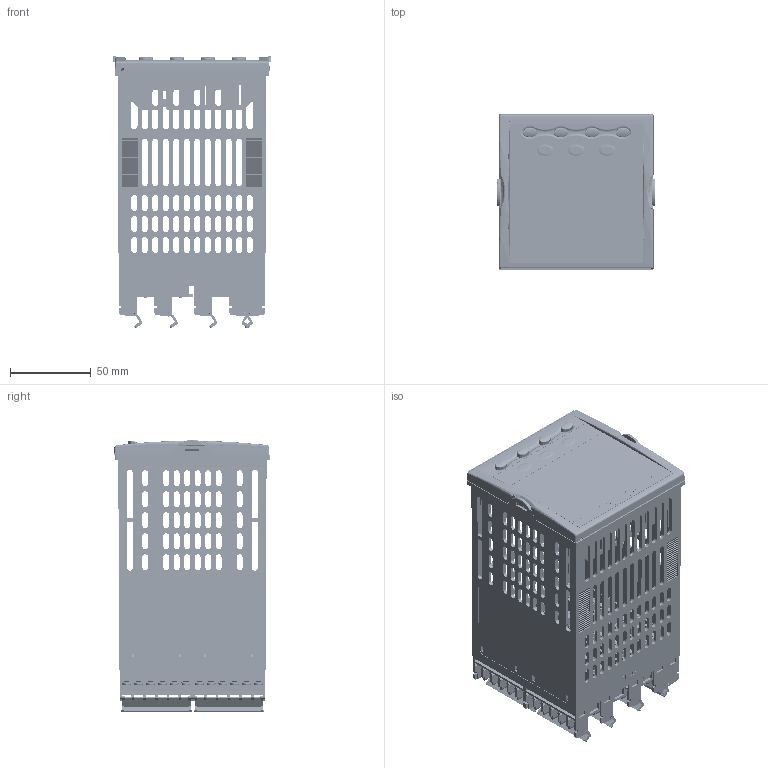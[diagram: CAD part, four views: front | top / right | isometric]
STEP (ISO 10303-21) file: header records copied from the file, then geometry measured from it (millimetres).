
FILE_DESCRIPTION((''),'2;1');
FILE_NAME('3504_IGES','2012-01-10T',('chrisloe'),(''),'PRO/ENGINEER BY PARAMETRIC TECHNOLOGY CORPORATION, 2010180','PRO/ENGINEER BY PARAMETRIC TECHNOLOGY CORPORATION, 2010180','');
FILE_SCHEMA(('CONFIG_CONTROL_DESIGN'));
Products named in the file (1): 3504_IGES
Bounding box: 97.9 x 96.45 x 169.01 mm (x, y, z)
Volume: 181126.2 mm3; surface area: 301194.9 mm2
Topology: 4 solids, 173 shells, 24429 faces, 67334 edges, 43067 vertices
Faces by surface type: plane 19413, cylinder 4055, cone 438, bspline 246, torus 197, extrusion 66, sphere 14
Entity records: 803380 total; most frequent: CARTESIAN_POINT 191026, ORIENTED_EDGE 134216, DIRECTION 116309, EDGE_CURVE 67241, VECTOR 52247, LINE 52181, VERTEX_POINT 43058, AXIS2_PLACEMENT_3D 32031
